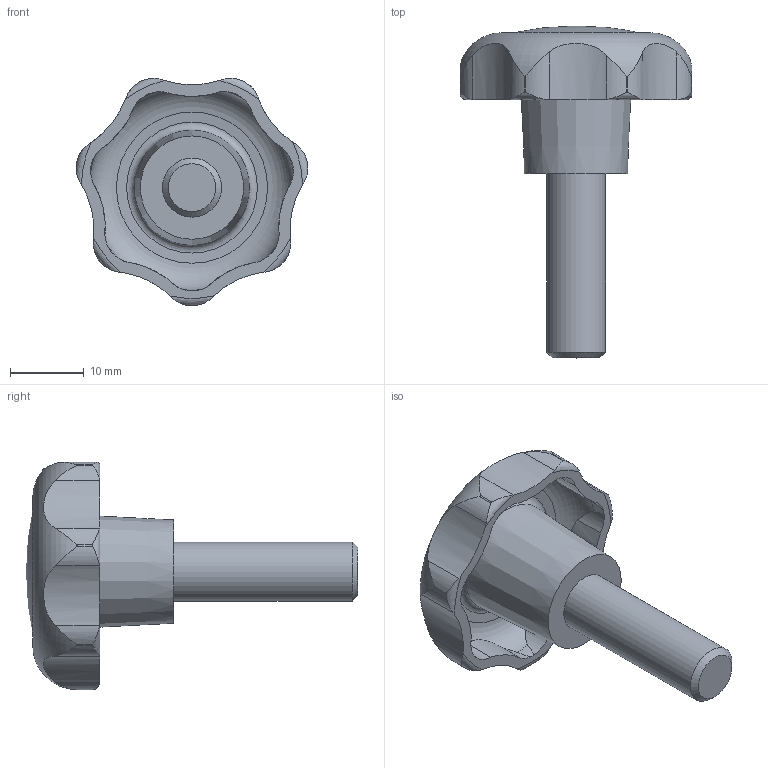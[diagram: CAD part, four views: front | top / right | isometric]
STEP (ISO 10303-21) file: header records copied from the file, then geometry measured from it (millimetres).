
FILE_DESCRIPTION( ( 'STEP AP203' ), '1' );
FILE_NAME( 'C:/Temp/Ganter_Step_05_03_2020/data/2_2/gn_6336_4/gn_6336_4_st/Star knob GN 6336.4-ST-32-M8-25.stp', '2020-03-05T12:07:24', ( 'License CC BY-ND 4.0' ), ( 'CADENAS' ), ' ', 'PARTsolutions', ' ' );
FILE_SCHEMA( ( 'CONFIG_CONTROL_DESIGN' ) );
Length unit declared in the file: millimetre
Products named in the file (1): _Star knob GN 6336.4-ST-32-M8-25
Bounding box: 31.4 x 45 x 30.81 mm (x, y, z)
Volume: 7054.9 mm3; surface area: 3799.6 mm2
Topology: 1 solids, 1 shells, 74 faces, 209 edges, 138 vertices
Faces by surface type: cylinder 50, torus 10, cone 10, plane 3, sphere 1
Full cylindrical faces by diameter (mm): 8 x1
Entity records: 3221 total; most frequent: CARTESIAN_POINT 1406, ORIENTED_EDGE 394, DIRECTION 336, EDGE_CURVE 197, AXIS2_PLACEMENT_3D 147, VERTEX_POINT 136, EDGE_LOOP 83, B_SPLINE_CURVE_WITH_KNOTS 83
